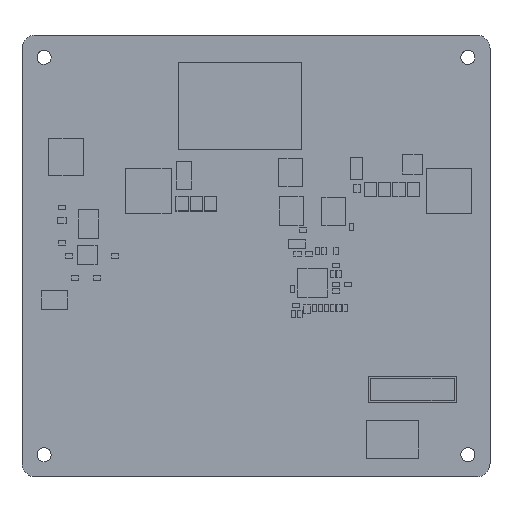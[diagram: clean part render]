
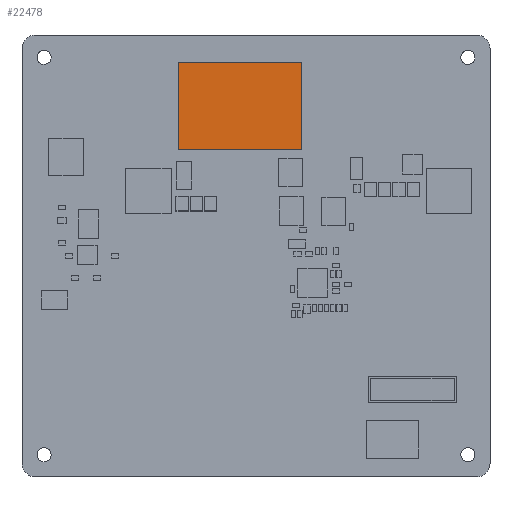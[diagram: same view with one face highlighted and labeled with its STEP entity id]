
A CAD part, top view. The second image highlights one B-rep face of the part: STEP entity #22478.
In plain terms, the highlighted planar face has unit normal (0, 0, 1).
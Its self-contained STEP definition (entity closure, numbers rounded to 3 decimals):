
#22164 = VERTEX_POINT('',#22165);
#22165 = CARTESIAN_POINT('',(35.498,74.064,16.7));
#22172 = PLANE('',#22173);
#22173 = AXIS2_PLACEMENT_3D('',#22174,#22175,#22176);
#22174 = CARTESIAN_POINT('',(35.498,74.064,1.2));
#22175 = DIRECTION('',(1.,0.,0.));
#22176 = DIRECTION('',(0.,0.,1.));
#22184 = PLANE('',#22185);
#22185 = AXIS2_PLACEMENT_3D('',#22186,#22187,#22188);
#22186 = CARTESIAN_POINT('',(35.498,74.064,1.2));
#22187 = DIRECTION('',(0.,1.,0.));
#22188 = DIRECTION('',(0.,0.,1.));
#22225 = VERTEX_POINT('',#22226);
#22226 = CARTESIAN_POINT('',(35.498,93.864,16.7));
#22240 = PLANE('',#22241);
#22241 = AXIS2_PLACEMENT_3D('',#22242,#22243,#22244);
#22242 = CARTESIAN_POINT('',(35.498,93.864,1.2));
#22243 = DIRECTION('',(0.,1.,0.));
#22244 = DIRECTION('',(0.,0.,1.));
#22252 = EDGE_CURVE('',#22164,#22225,#22253,.T.);
#22253 = SURFACE_CURVE('',#22254,(#22258,#22265),.PCURVE_S1.);
#22254 = LINE('',#22255,#22256);
#22255 = CARTESIAN_POINT('',(35.498,74.064,16.7));
#22256 = VECTOR('',#22257,1.);
#22257 = DIRECTION('',(0.,1.,0.));
#22258 = PCURVE('',#22172,#22259);
#22259 = DEFINITIONAL_REPRESENTATION('',(#22260),#22264);
#22260 = LINE('',#22261,#22262);
#22261 = CARTESIAN_POINT('',(15.5,0.));
#22262 = VECTOR('',#22263,1.);
#22263 = DIRECTION('',(0.,-1.));
#22264 = ( GEOMETRIC_REPRESENTATION_CONTEXT(2) 
PARAMETRIC_REPRESENTATION_CONTEXT() REPRESENTATION_CONTEXT('2D SPACE',''
  ) );
#22265 = PCURVE('',#22266,#22271);
#22266 = PLANE('',#22267);
#22267 = AXIS2_PLACEMENT_3D('',#22268,#22269,#22270);
#22268 = CARTESIAN_POINT('',(35.498,74.064,16.7));
#22269 = DIRECTION('',(0.,0.,1.));
#22270 = DIRECTION('',(1.,0.,0.));
#22271 = DEFINITIONAL_REPRESENTATION('',(#22272),#22276);
#22272 = LINE('',#22273,#22274);
#22273 = CARTESIAN_POINT('',(0.,0.));
#22274 = VECTOR('',#22275,1.);
#22275 = DIRECTION('',(0.,1.));
#22276 = ( GEOMETRIC_REPRESENTATION_CONTEXT(2) 
PARAMETRIC_REPRESENTATION_CONTEXT() REPRESENTATION_CONTEXT('2D SPACE',''
  ) );
#22284 = VERTEX_POINT('',#22285);
#22285 = CARTESIAN_POINT('',(63.398,74.064,16.7));
#22292 = PLANE('',#22293);
#22293 = AXIS2_PLACEMENT_3D('',#22294,#22295,#22296);
#22294 = CARTESIAN_POINT('',(63.398,74.064,1.2));
#22295 = DIRECTION('',(1.,0.,0.));
#22296 = DIRECTION('',(0.,0.,1.));
#22335 = VERTEX_POINT('',#22336);
#22336 = CARTESIAN_POINT('',(63.398,93.864,16.7));
#22357 = EDGE_CURVE('',#22284,#22335,#22358,.T.);
#22358 = SURFACE_CURVE('',#22359,(#22363,#22370),.PCURVE_S1.);
#22359 = LINE('',#22360,#22361);
#22360 = CARTESIAN_POINT('',(63.398,74.064,16.7));
#22361 = VECTOR('',#22362,1.);
#22362 = DIRECTION('',(0.,1.,0.));
#22363 = PCURVE('',#22292,#22364);
#22364 = DEFINITIONAL_REPRESENTATION('',(#22365),#22369);
#22365 = LINE('',#22366,#22367);
#22366 = CARTESIAN_POINT('',(15.5,0.));
#22367 = VECTOR('',#22368,1.);
#22368 = DIRECTION('',(0.,-1.));
#22369 = ( GEOMETRIC_REPRESENTATION_CONTEXT(2) 
PARAMETRIC_REPRESENTATION_CONTEXT() REPRESENTATION_CONTEXT('2D SPACE',''
  ) );
#22370 = PCURVE('',#22266,#22371);
#22371 = DEFINITIONAL_REPRESENTATION('',(#22372),#22376);
#22372 = LINE('',#22373,#22374);
#22373 = CARTESIAN_POINT('',(27.9,0.));
#22374 = VECTOR('',#22375,1.);
#22375 = DIRECTION('',(0.,1.));
#22376 = ( GEOMETRIC_REPRESENTATION_CONTEXT(2) 
PARAMETRIC_REPRESENTATION_CONTEXT() REPRESENTATION_CONTEXT('2D SPACE',''
  ) );
#22403 = EDGE_CURVE('',#22164,#22284,#22404,.T.);
#22404 = SURFACE_CURVE('',#22405,(#22409,#22416),.PCURVE_S1.);
#22405 = LINE('',#22406,#22407);
#22406 = CARTESIAN_POINT('',(35.498,74.064,16.7));
#22407 = VECTOR('',#22408,1.);
#22408 = DIRECTION('',(1.,0.,0.));
#22409 = PCURVE('',#22184,#22410);
#22410 = DEFINITIONAL_REPRESENTATION('',(#22411),#22415);
#22411 = LINE('',#22412,#22413);
#22412 = CARTESIAN_POINT('',(15.5,0.));
#22413 = VECTOR('',#22414,1.);
#22414 = DIRECTION('',(0.,1.));
#22415 = ( GEOMETRIC_REPRESENTATION_CONTEXT(2) 
PARAMETRIC_REPRESENTATION_CONTEXT() REPRESENTATION_CONTEXT('2D SPACE',''
  ) );
#22416 = PCURVE('',#22266,#22417);
#22417 = DEFINITIONAL_REPRESENTATION('',(#22418),#22422);
#22418 = LINE('',#22419,#22420);
#22419 = CARTESIAN_POINT('',(0.,0.));
#22420 = VECTOR('',#22421,1.);
#22421 = DIRECTION('',(1.,0.));
#22422 = ( GEOMETRIC_REPRESENTATION_CONTEXT(2) 
PARAMETRIC_REPRESENTATION_CONTEXT() REPRESENTATION_CONTEXT('2D SPACE',''
  ) );
#22450 = EDGE_CURVE('',#22225,#22335,#22451,.T.);
#22451 = SURFACE_CURVE('',#22452,(#22456,#22463),.PCURVE_S1.);
#22452 = LINE('',#22453,#22454);
#22453 = CARTESIAN_POINT('',(35.498,93.864,16.7));
#22454 = VECTOR('',#22455,1.);
#22455 = DIRECTION('',(1.,0.,0.));
#22456 = PCURVE('',#22240,#22457);
#22457 = DEFINITIONAL_REPRESENTATION('',(#22458),#22462);
#22458 = LINE('',#22459,#22460);
#22459 = CARTESIAN_POINT('',(15.5,0.));
#22460 = VECTOR('',#22461,1.);
#22461 = DIRECTION('',(0.,1.));
#22462 = ( GEOMETRIC_REPRESENTATION_CONTEXT(2) 
PARAMETRIC_REPRESENTATION_CONTEXT() REPRESENTATION_CONTEXT('2D SPACE',''
  ) );
#22463 = PCURVE('',#22266,#22464);
#22464 = DEFINITIONAL_REPRESENTATION('',(#22465),#22469);
#22465 = LINE('',#22466,#22467);
#22466 = CARTESIAN_POINT('',(0.,19.8));
#22467 = VECTOR('',#22468,1.);
#22468 = DIRECTION('',(1.,0.));
#22469 = ( GEOMETRIC_REPRESENTATION_CONTEXT(2) 
PARAMETRIC_REPRESENTATION_CONTEXT() REPRESENTATION_CONTEXT('2D SPACE',''
  ) );
#22478 = ADVANCED_FACE('',(#22479),#22266,.T.);
#22479 = FACE_BOUND('',#22480,.T.);
#22480 = EDGE_LOOP('',(#22481,#22482,#22483,#22484));
#22481 = ORIENTED_EDGE('',*,*,#22252,.F.);
#22482 = ORIENTED_EDGE('',*,*,#22403,.T.);
#22483 = ORIENTED_EDGE('',*,*,#22357,.T.);
#22484 = ORIENTED_EDGE('',*,*,#22450,.F.);
